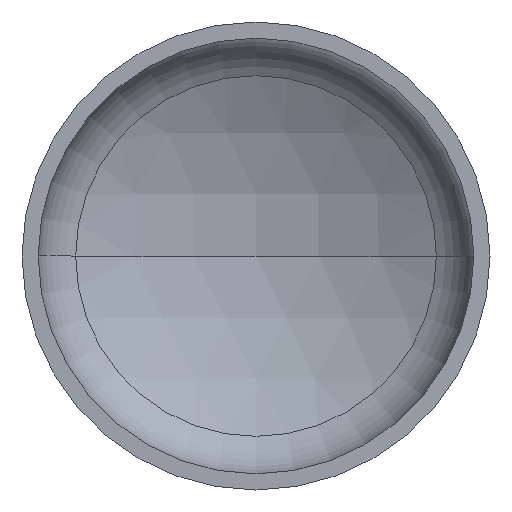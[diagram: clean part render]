
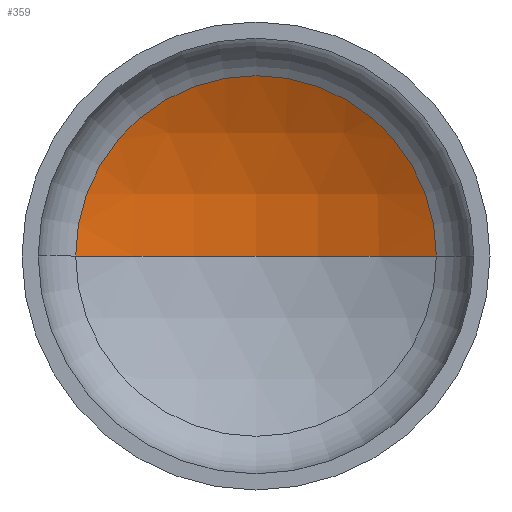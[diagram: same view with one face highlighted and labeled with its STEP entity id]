
A CAD part, front view. The second image highlights one B-rep face of the part: STEP entity #359.
In plain terms, the highlighted spherical face has radius 1760 mm.
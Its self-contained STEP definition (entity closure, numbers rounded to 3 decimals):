
#1 = AXIS2_PLACEMENT_3D ( 'NONE', #259, #135, #100 ) ;
#2 = AXIS2_PLACEMENT_3D ( 'NONE', #320, #171, #352 ) ;
#12 = AXIS2_PLACEMENT_3D ( 'NONE', #227, #41, #149 ) ;
#21 = EDGE_LOOP ( 'NONE', ( #143, #138, #62 ) ) ;
#41 = DIRECTION ( 'NONE',  ( 0., 0., 1. ) ) ;
#52 = VERTEX_POINT ( 'NONE', #244 ) ;
#62 = ORIENTED_EDGE ( 'NONE', *, *, #377, .T. ) ;
#83 = VERTEX_POINT ( 'NONE', #336 ) ;
#100 = DIRECTION ( 'NONE',  ( -1., 0., 0. ) ) ;
#131 = VERTEX_POINT ( 'NONE', #172 ) ;
#135 = DIRECTION ( 'NONE',  ( 0., 0., -1. ) ) ;
#138 = ORIENTED_EDGE ( 'NONE', *, *, #374, .T. ) ;
#143 = ORIENTED_EDGE ( 'NONE', *, *, #353, .F. ) ;
#149 = DIRECTION ( 'NONE',  ( 1., 0., 0. ) ) ;
#171 = DIRECTION ( 'NONE',  ( 0., 0., -1. ) ) ;
#172 = CARTESIAN_POINT ( 'NONE',  ( 0., 635.595, 0. ) ) ;
#212 = CIRCLE ( 'NONE', #2, 1760. ) ;
#218 = CIRCLE ( 'NONE', #12, 1760. ) ;
#227 = CARTESIAN_POINT ( 'NONE',  ( 0., -1124.405, 0. ) ) ;
#244 = CARTESIAN_POINT ( 'NONE',  ( -847.775, 417.956, 0. ) ) ;
#248 = DIRECTION ( 'NONE',  ( 0., -1., 0. ) ) ;
#259 = CARTESIAN_POINT ( 'NONE',  ( 0., -1124.405, 0. ) ) ;
#260 = AXIS2_PLACEMENT_3D ( 'NONE', #389, #248, #346 ) ;
#320 = CARTESIAN_POINT ( 'NONE',  ( 0., -1124.405, 0. ) ) ;
#328 = CIRCLE ( 'NONE', #260, 847.775 ) ;
#336 = CARTESIAN_POINT ( 'NONE',  ( 847.775, 417.956, 0. ) ) ;
#340 = FACE_OUTER_BOUND ( 'NONE', #21, .T. ) ;
#346 = DIRECTION ( 'NONE',  ( 1., 0., 0. ) ) ;
#352 = DIRECTION ( 'NONE',  ( -1., 0., 0. ) ) ;
#353 = EDGE_CURVE ( 'NONE', #131, #52, #218, .T. ) ;
#359 = ADVANCED_FACE ( 'NONE', ( #340 ), #399, .F. ) ;
#374 = EDGE_CURVE ( 'NONE', #131, #83, #212, .T. ) ;
#377 = EDGE_CURVE ( 'NONE', #83, #52, #328, .T. ) ;
#389 = CARTESIAN_POINT ( 'NONE',  ( 0., 417.956, 0. ) ) ;
#399 = SPHERICAL_SURFACE ( 'NONE', #1, 1760. ) ;
